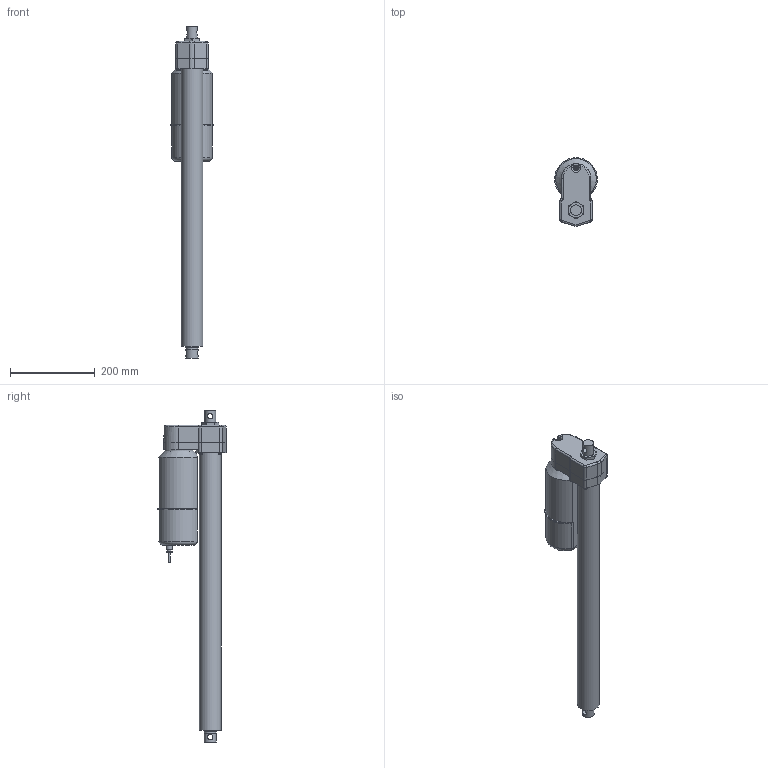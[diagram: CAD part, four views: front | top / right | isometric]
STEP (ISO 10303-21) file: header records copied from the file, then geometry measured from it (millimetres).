
FILE_DESCRIPTION (( 'STEP AP214' ), '1' );
FILE_NAME ('A42-05B5-20M0N-tollo.step', '2020-04-06T18:54:27', ( '' ), ( '' ), 'SwSTEP 2.0', 'SolidWorks 2010', '' );
FILE_SCHEMA (( 'AUTOMOTIVE_DESIGN' ));
Length unit declared in the file: millimetre
Products named in the file (7): Electrak-LA5-Motor-A42-05B5-20M0N-tollo_Electrak-LA5-Motor-A42-05B5-20M0N-tollo; Electrak-LA5-Rear-A42-05B5-20M0N-tollo_Electrak-LA5-Rear-A42-05B5-20M0N-tollo; Electrak-LA5-Tube-A42-05B5-20M0N-tollo_Electrak-LA5-Tube-A42-05B5-20M0N-tollo; Electrak-LA5-Rod-A42-05B5-20M0N-tollo_Electrak-LA5-Rod-A42-05B5-20M0N-tollo; Screw-MFX-H-M5-A42-05B5-20M0N-tollo_Screw-MFX-H-M5-A42-05B5-20M0N-tollo; Screw-M6S-M5-A42-05B5-20M0N-tollo_Screw-M6S-M5-A42-05B5-20M0N-tollo; A42-05B5-20M0N-tollo
Assembly tree (9 placements, depth 2):
  A42-05B5-20M0N-tollo
    Screw-M6S-M5-A42-05B5-20M0N-tollo_Screw-M6S-M5-A42-05B5-20M0N-tollo  x4
    Screw-MFX-H-M5-A42-05B5-20M0N-tollo_Screw-MFX-H-M5-A42-05B5-20M0N-tollo
    Electrak-LA5-Tube-A42-05B5-20M0N-tollo_Electrak-LA5-Tube-A42-05B5-20M0N-tollo
    Electrak-LA5-Rod-A42-05B5-20M0N-tollo_Electrak-LA5-Rod-A42-05B5-20M0N-tollo
    Electrak-LA5-Rear-A42-05B5-20M0N-tollo_Electrak-LA5-Rear-A42-05B5-20M0N-tollo
    Electrak-LA5-Motor-A42-05B5-20M0N-tollo_Electrak-LA5-Motor-A42-05B5-20M0N-tollo
Bounding box: 100.99 x 162.5 x 785.4 mm (x, y, z)
Volume: 3477400.2 mm3; surface area: 367104.1 mm2
Topology: 9 solids, 9 shells, 238 faces, 549 edges, 347 vertices
Faces by surface type: plane 95, cylinder 92, cone 31, torus 15, bspline 3, sphere 2
Full cylindrical faces by diameter (mm): 4 x1, 4.126 x5, 4.8 x2, 5 x13, 7.878 x4, 9.3 x1, 10 x1, 12.8 x2, 15 x2, 25.4 x1, 28.6 x4, 51.3 x1, 68 x1
Entity records: 5776 total; most frequent: CARTESIAN_POINT 1721, DIRECTION 806, ORIENTED_EDGE 666, AXIS2_PLACEMENT_3D 339, EDGE_CURVE 333, EDGE_LOOP 245, VERTEX_POINT 236, FACE_OUTER_BOUND 198
